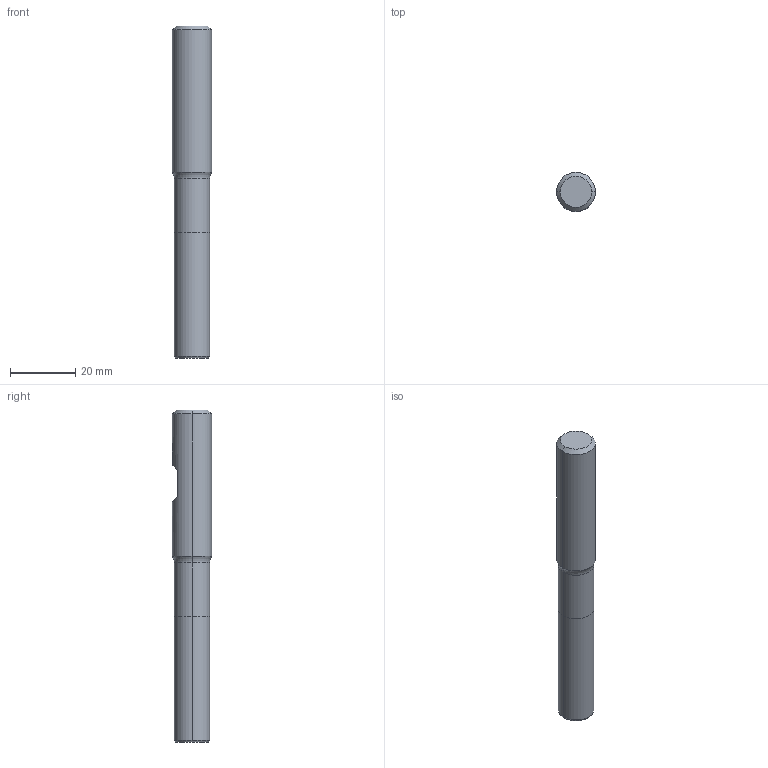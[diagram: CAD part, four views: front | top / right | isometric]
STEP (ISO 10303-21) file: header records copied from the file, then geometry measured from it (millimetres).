
FILE_DESCRIPTION (( 'STEP AP214' ), '1' );
FILE_NAME ('817.109.10_3D-model.step', '2022-02-24T00:03:21', ( '' ), ( '' ), 'SwSTEP 2.0', 'SolidWorks 2020', '' );
FILE_SCHEMA (( 'AUTOMOTIVE_DESIGN' ));
Length unit declared in the file: millimetre
Products named in the file (3): NOCUT-3D^Baugr161; 817.109.10_3D-model; CUT-3D^Baugr161
Assembly tree (2 placements, depth 2):
  817.109.10_3D-model
    CUT-3D^Baugr161
    NOCUT-3D^Baugr161
Bounding box: 12 x 12 x 102 mm (x, y, z)
Volume: 10308.9 mm3; surface area: 4010.4 mm2
Topology: 2 solids, 2 shells, 21 faces, 38 edges, 22 vertices
Faces by surface type: plane 7, cylinder 6, cone 6, torus 2
Entity records: 634 total; most frequent: DIRECTION 114, CARTESIAN_POINT 95, ORIENTED_EDGE 76, AXIS2_PLACEMENT_3D 49, EDGE_CURVE 38, VERTEX_POINT 22, EDGE_LOOP 22, ADVANCED_FACE 21
